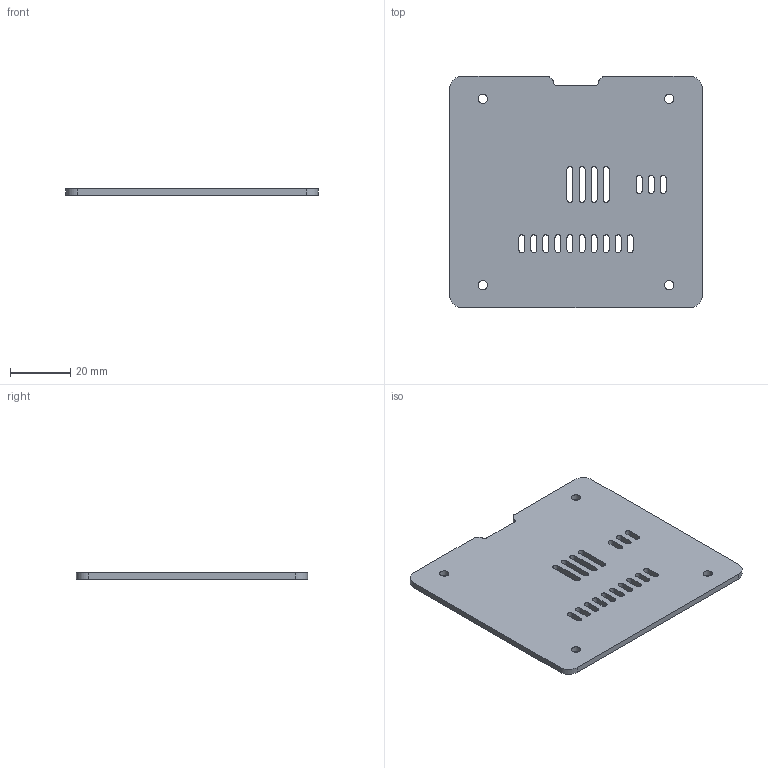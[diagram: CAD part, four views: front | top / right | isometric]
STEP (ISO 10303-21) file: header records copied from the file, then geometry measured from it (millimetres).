
FILE_DESCRIPTION(/* description */ ('Alibre Inc.'),/* implementation_level */ '2;1');
FILE_NAME(/* name */ 'export0',/* time_stamp */ '2018-10-16T15:26:58-07:00',/* author */ (''),/* organization */ (''),/* preprocessor_version */ 'ST-DEVELOPER v17',/* originating_system */ 'Alibre',/* authorisation */ '');
FILE_SCHEMA (('AUTOMOTIVE_DESIGN'));
Length unit declared in the file: millimetre
Bounding box: 84 x 77 x 2 mm (x, y, z)
Volume: 12279.5 mm3; surface area: 13575.8 mm2
Topology: 1 solids, 1 shells, 94 faces, 276 edges, 184 vertices
Faces by surface type: cylinder 48, plane 46
Full cylindrical faces by diameter (mm): 3.1 x4
Entity records: 3177 total; most frequent: CARTESIAN_POINT 547, ORIENTED_EDGE 544, DIRECTION 507, EDGE_CURVE 272, AXIS2_PLACEMENT_3D 189, VERTEX_POINT 184, VECTOR 174, LINE 174
